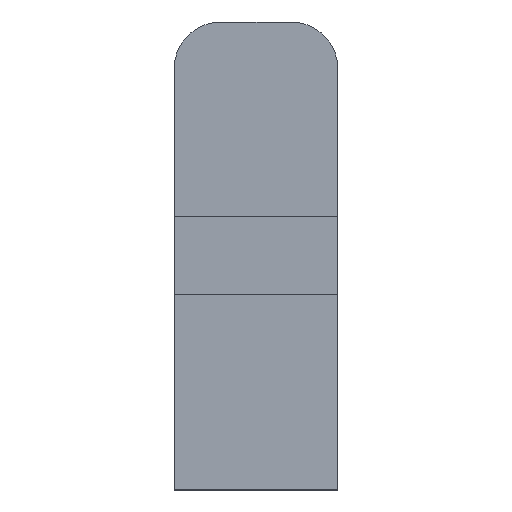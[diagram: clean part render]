
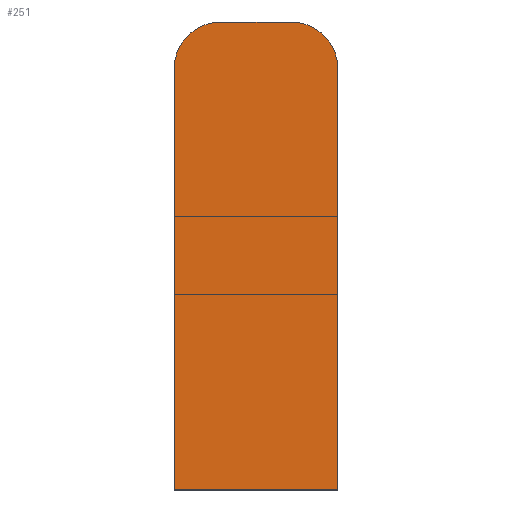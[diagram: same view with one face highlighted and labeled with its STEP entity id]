
A CAD part, front view. The second image highlights one B-rep face of the part: STEP entity #251.
In plain terms, the highlighted planar face has unit normal (0, -1, 0).
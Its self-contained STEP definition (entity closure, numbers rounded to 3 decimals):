
#26 = LINE ( 'NONE', #441, #163 ) ;
#38 = ORIENTED_EDGE ( 'NONE', *, *, #345, .T. ) ;
#39 = ORIENTED_EDGE ( 'NONE', *, *, #300, .T. ) ;
#60 = ORIENTED_EDGE ( 'NONE', *, *, #303, .T. ) ;
#93 = ORIENTED_EDGE ( 'NONE', *, *, #307, .T. ) ;
#94 = ORIENTED_EDGE ( 'NONE', *, *, #335, .T. ) ;
#107 = FACE_OUTER_BOUND ( 'NONE', #132, .T. ) ;
#111 = ORIENTED_EDGE ( 'NONE', *, *, #320, .T. ) ;
#132 = EDGE_LOOP ( 'NONE', ( #93, #94, #60, #38, #39, #111 ) ) ;
#142 = VECTOR ( 'NONE', #495, 1000. ) ;
#149 = LINE ( 'NONE', #494, #142 ) ;
#163 = VECTOR ( 'NONE', #438, 1000. ) ;
#166 = VECTOR ( 'NONE', #455, 1000. ) ;
#168 = LINE ( 'NONE', #440, #166 ) ;
#174 = CIRCLE ( 'NONE', #286, 3. ) ;
#217 = LINE ( 'NONE', #456, #219 ) ;
#219 = VECTOR ( 'NONE', #466, 1000. ) ;
#226 = CIRCLE ( 'NONE', #274, 3. ) ;
#251 = ADVANCED_FACE ( 'NONE', ( #107 ), #395, .F. ) ;
#267 = AXIS2_PLACEMENT_3D ( 'NONE', #398, #407, #408 ) ;
#274 = AXIS2_PLACEMENT_3D ( 'NONE', #536, #547, #548 ) ;
#286 = AXIS2_PLACEMENT_3D ( 'NONE', #524, #526, #527 ) ;
#300 = EDGE_CURVE ( 'NONE', #599, #598, #26, .T. ) ;
#303 = EDGE_CURVE ( 'NONE', #602, #604, #168, .T. ) ;
#307 = EDGE_CURVE ( 'NONE', #350, #356, #217, .T. ) ;
#320 = EDGE_CURVE ( 'NONE', #598, #350, #149, .T. ) ;
#335 = EDGE_CURVE ( 'NONE', #356, #602, #174, .T. ) ;
#345 = EDGE_CURVE ( 'NONE', #604, #599, #226, .T. ) ;
#350 = VERTEX_POINT ( 'NONE', #553 ) ;
#356 = VERTEX_POINT ( 'NONE', #556 ) ;
#395 = PLANE ( 'NONE',  #267 ) ;
#398 = CARTESIAN_POINT ( 'NONE',  ( 0., 0., -1.5 ) ) ;
#407 = DIRECTION ( 'NONE',  ( 0., 1., 0. ) ) ;
#408 = DIRECTION ( 'NONE',  ( -1., 0., 0. ) ) ;
#438 = DIRECTION ( 'NONE',  ( 0., 0., -1. ) ) ;
#440 = CARTESIAN_POINT ( 'NONE',  ( 2.25, 0., 13.5 ) ) ;
#441 = CARTESIAN_POINT ( 'NONE',  ( -5.25, 0., -16.5 ) ) ;
#455 = DIRECTION ( 'NONE',  ( -1., 0., 0. ) ) ;
#456 = CARTESIAN_POINT ( 'NONE',  ( 5.25, 0., -16.5 ) ) ;
#466 = DIRECTION ( 'NONE',  ( 0., 0., 1. ) ) ;
#494 = CARTESIAN_POINT ( 'NONE',  ( 5.25, 0., -16.5 ) ) ;
#495 = DIRECTION ( 'NONE',  ( 1., 0., 0. ) ) ;
#524 = CARTESIAN_POINT ( 'NONE',  ( 2.25, 0., 10.5 ) ) ;
#526 = DIRECTION ( 'NONE',  ( 0., -1., 0. ) ) ;
#527 = DIRECTION ( 'NONE',  ( -1., 0., 0. ) ) ;
#536 = CARTESIAN_POINT ( 'NONE',  ( -2.25, 0., 10.5 ) ) ;
#547 = DIRECTION ( 'NONE',  ( 0., -1., 0. ) ) ;
#548 = DIRECTION ( 'NONE',  ( -1., 0., 0. ) ) ;
#553 = CARTESIAN_POINT ( 'NONE',  ( 5.25, 0., -16.5 ) ) ;
#556 = CARTESIAN_POINT ( 'NONE',  ( 5.25, 0., 10.5 ) ) ;
#573 = CARTESIAN_POINT ( 'NONE',  ( -5.25, 0., -16.5 ) ) ;
#574 = CARTESIAN_POINT ( 'NONE',  ( -5.25, 0., 10.5 ) ) ;
#577 = CARTESIAN_POINT ( 'NONE',  ( 2.25, 0., 13.5 ) ) ;
#579 = CARTESIAN_POINT ( 'NONE',  ( -2.25, 0., 13.5 ) ) ;
#598 = VERTEX_POINT ( 'NONE', #573 ) ;
#599 = VERTEX_POINT ( 'NONE', #574 ) ;
#602 = VERTEX_POINT ( 'NONE', #577 ) ;
#604 = VERTEX_POINT ( 'NONE', #579 ) ;
